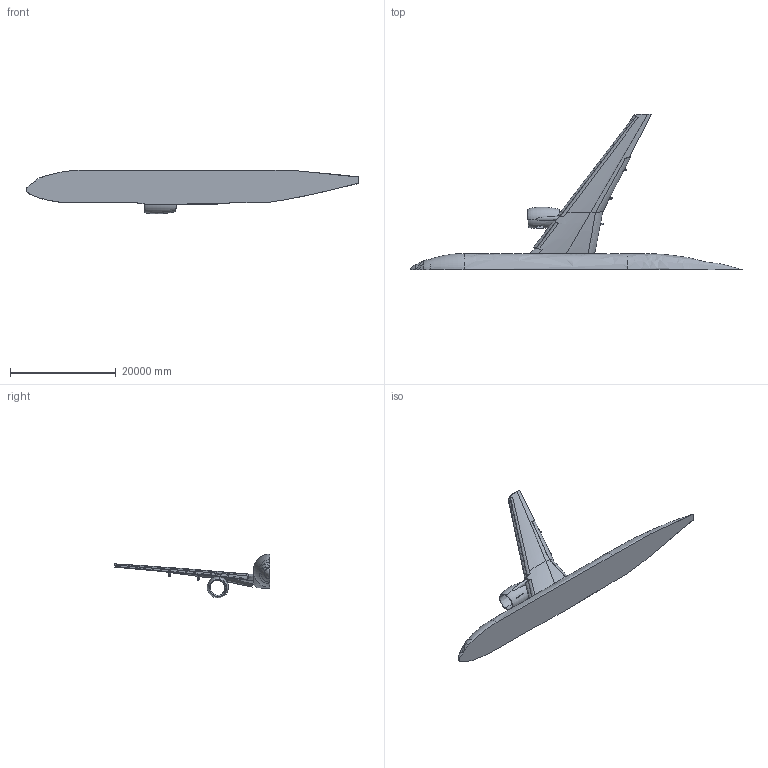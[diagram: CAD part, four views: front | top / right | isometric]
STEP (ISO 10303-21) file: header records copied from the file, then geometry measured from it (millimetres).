
FILE_DESCRIPTION(('CATIA V5 STEP Exchange','CAx-IF Rec.Pracs.--- Model Styling and Organization---1.5--- 2016-08-15','CAx-IF Rec.Pracs.---Supplemental Geometry---1.0---2011-11-01','CAx-IF Rec.Pracs.---Representation and Presentation of Product Manufacturing Information (PMI)---4.0---2014-10-13','CAx-IF Rec.Pracs.---User Defined Attributes---1.7---2020-08-25','CAx-IF Rec.Pracs.--- Geometric and Assembly Validation Properties ---4.4---2016-08-17','CAx-IF Rec.Pracs.---Tessellated 3D Geometry---1.0---2015-12-17'),'2;1');
FILE_NAME('C:\Users\ww962c\Desktop\CATIA Working\CRM-HL\03 HLPW5\TC3\NTF5p2_CRMHL_LDG_V02.stp','2023-11-17T19:42:38+00:00',('none'),('none'),'CATIA Version 5-6 Release 2021 SP3 HF11','CATIA V5 STEP AP242 v2','none');
FILE_SCHEMA(('AP242_MANAGED_MODEL_BASED_3D_ENGINEERING_MIM_LF {1 0 10303 442 2 1 4}'));
Products named in the file (1): Part4
Bounding box: 62725.3 x 29461.71 x 8238.96 mm (x, y, z)
Volume: 870627399495.8 mm3; surface area: 1468168392.4 mm2
Topology: 1 solids, 1 shells, 504 faces, 1655 edges, 1131 vertices
Faces by surface type: bspline 198, plane 167, extrusion 74, cylinder 60, sphere 5
Entity records: 419984 total; most frequent: CARTESIAN_POINT 407901, ORIENTED_EDGE 3300, EDGE_CURVE 1650, DIRECTION 1170, B_SPLINE_CURVE_WITH_KNOTS 1146, VERTEX_POINT 1131, EDGE_LOOP 525, VECTOR 523
